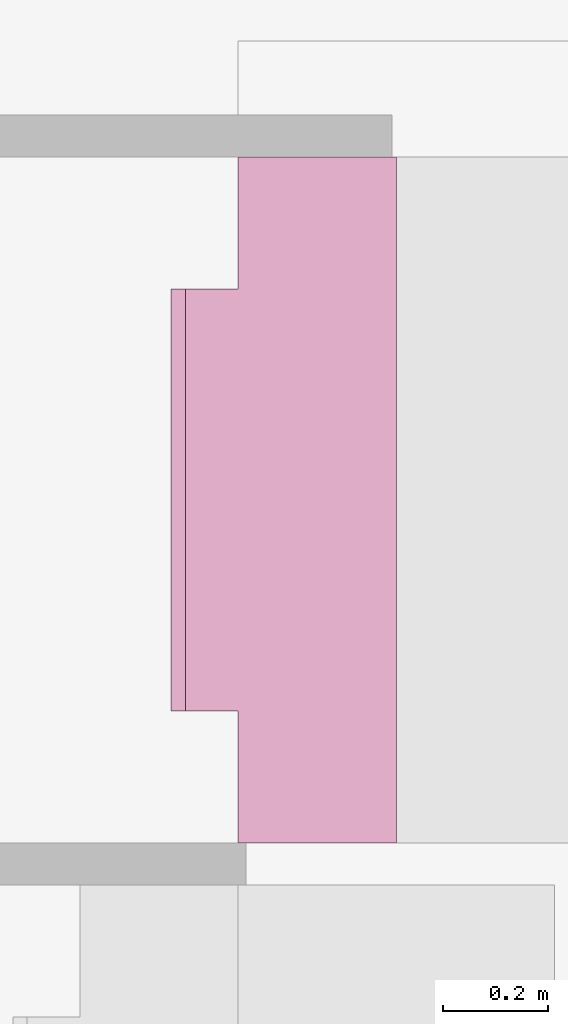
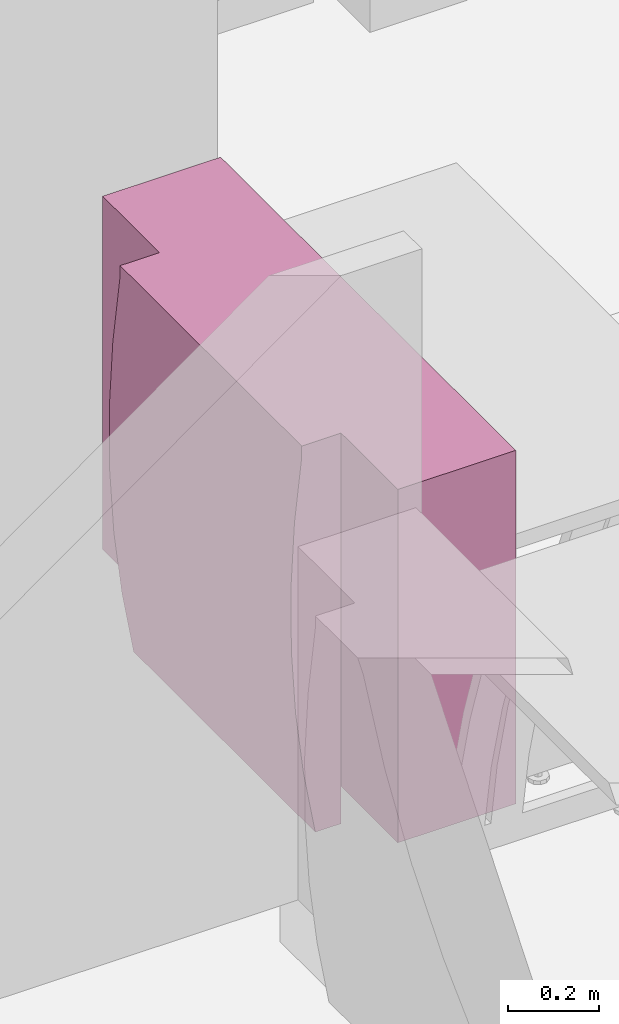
# One storey, part 106 of 128: 1 furnishing.
"""IFC2X3 building model written with IfcOpenShell, lengths in metres."""

from ifc_helpers import new_model, entity, si_unit, converted_unit, derived_unit, direction, frame, origin, place, context, subcontext, project, spatial, faceted_brep, source, transform, mapped, material, type_object, type_shapes, element, save


model = new_model("IFC2X3")

# Units and contexts
model_context = context("Model", 3, precision=1e-05, world=origin(), true_north=direction((6.123031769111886e-17, 1.0)))
body_context = subcontext(model_context, "Body", "Model", "MODEL_VIEW")
ifc_project = project(units=[si_unit("LENGTHUNIT", "METRE"), si_unit("AREAUNIT", "SQUARE_METRE"), converted_unit("PLANEANGLEUNIT", "DEGREE", entity("IfcPlaneAngleMeasure", 0.017453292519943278), si_unit("PLANEANGLEUNIT", "RADIAN"), dimensions=[0, 0, 0, 0, 0, 0, 0]), derived_unit("THERMALTRANSMITTANCEUNIT", [(si_unit("MASSUNIT", "GRAM", prefix="KILO"), 1), (si_unit("THERMODYNAMICTEMPERATUREUNIT", "KELVIN"), -1), (si_unit("TIMEUNIT", "SECOND"), -3)])], contexts=[model_context])

# Site, building, storey
site_placement = place(None, origin())
site = spatial("IfcSite", under=ifc_project, at=site_placement, Name="Default", CompositionType="ELEMENT")
building_placement = place(site_placement, origin())
building = spatial("IfcBuilding", under=site, at=building_placement, CompositionType="ELEMENT")
storey_placement = place(building_placement, origin())
storey = spatial("IfcBuildingStorey", under=building, at=storey_placement, Name="00_RDC CAF", CompositionType="ELEMENT", Elevation=2.4982504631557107e-13)

# Furnishing
ifc_material = material(Name="ARC - Mo - Blanc")
furniture_type = type_object("IfcFurnitureType", Name="Mo_Comptoir_Accueil:Mo_Table_1300x400x1200mm", AssemblyPlace="NOTDEFINED", material=ifc_material)
shared_shape = source(origin(), body_context, "Body", "Brep", [
    faceted_brep([(-0.4000000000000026, -0.14999999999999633, 0.95), (-0.649999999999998, -0.14999999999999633, 0.95), (-0.6499999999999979, -0.14999999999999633, 0.0), (-0.4000000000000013, -0.14999999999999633, 0.0), (0.6499999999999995, -0.14999999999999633, 0.95), (0.4000000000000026, -0.14999999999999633, 0.95), (0.4000000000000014, -0.14999999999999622, 0.0), (0.6499999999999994, -0.14999999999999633, 0.0), (-0.6499999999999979, 0.15000000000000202, 0.0), (-0.62, 0.15000000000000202, 0.0), (-0.62, -0.11999999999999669, 0.0), (0.6199999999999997, -0.11999999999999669, 0.0), (0.6199999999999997, 0.14999999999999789, 0.0), (0.6499999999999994, 0.14999999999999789, 0.0), (-0.62, -0.11999999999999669, 0.92), (0.6199999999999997, -0.11999999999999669, 0.92), (-0.6499999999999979, 0.14999999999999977, 0.95), (0.6499999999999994, 0.14999999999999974, 0.95), (-0.4000000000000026, -0.2500000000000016, 0.95), (0.4000000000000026, -0.2500000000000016, 0.95), (-0.62, 0.15000000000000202, 0.92), (0.6199999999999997, 0.14999999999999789, 0.92), (-0.4000000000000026, -0.1499999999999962, -0.09999999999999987), (-0.4000000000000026, -0.2154774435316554, -0.09999999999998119), (-0.4000000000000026, -0.2454476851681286, 0.06825699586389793), (-0.4000000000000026, -0.26578784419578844, 0.23794762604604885), (-0.4000000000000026, -0.2764319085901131, 0.4085211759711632), (-0.4000000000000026, -0.27734533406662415, 0.5794240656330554), (-0.4000000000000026, -0.2685251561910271, 0.7501016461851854), (-0.4000000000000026, -0.2500000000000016, 0.92), (0.4000000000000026, -0.2500000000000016, 0.92), (0.4000000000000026, -0.2685251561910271, 0.7501016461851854), (0.4000000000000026, -0.27734533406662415, 0.5794240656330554), (0.4000000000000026, -0.2764319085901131, 0.4085211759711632), (0.4000000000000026, -0.26578784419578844, 0.23794762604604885), (0.4000000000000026, -0.2454476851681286, 0.06825699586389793), (0.4000000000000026, -0.2154774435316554, -0.09999999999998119), (0.4000000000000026, -0.1499999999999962, -0.09999999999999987)], [[[0, 1, 2, 3]], [[4, 5, 6, 7]], [[8, 9, 10, 11, 12, 13, 7, 6, 3, 2]], [[14, 15, 11, 10]], [[1, 16, 8, 2]], [[17, 4, 7, 13]], [[17, 16, 1, 0, 18, 19, 5, 4]], [[14, 20, 21, 15]], [[20, 14, 10, 9]], [[17, 13, 12, 21, 20, 9, 8, 16]], [[15, 21, 12, 11]], [[0, 3, 22, 23, 24, 25, 26, 27, 28, 29, 18]], [[19, 18, 29, 30]], [[31, 32, 33, 34, 35, 36, 37, 6, 5, 19, 30]], [[31, 30, 29, 28]], [[32, 31, 28, 27]], [[33, 32, 27, 26]], [[35, 34, 25, 24]], [[36, 35, 24, 23]], [[26, 25, 34, 33]], [[37, 36, 23, 22]], [[6, 37, 22, 3]]]),
])
type_shapes(furniture_type, [shared_shape])
furnishing_placement = place(storey_placement, frame((20.14552115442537, 141.66182648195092, 0.15999999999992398), z_axis=(0.0, 0.0, 1.0), x_axis=(0.0, -1.0, 0.0)))
element("IfcFurnishingElement", 1, at=furnishing_placement, inside=storey, type_object=furniture_type, material=ifc_material, Name="Mo_Comptoir_Accueil:Mo_Table_1300x400x1200mm", ObjectType="Mo_Comptoir_Accueil:Mo_Table_1300x400x1200mm", context=body_context, shape_type="MappedRepresentation", body=[
    mapped(shared_shape, transform((0.0, 0.0, 0.0), scale=1.0)),
])

save(model, "model.ifc")
